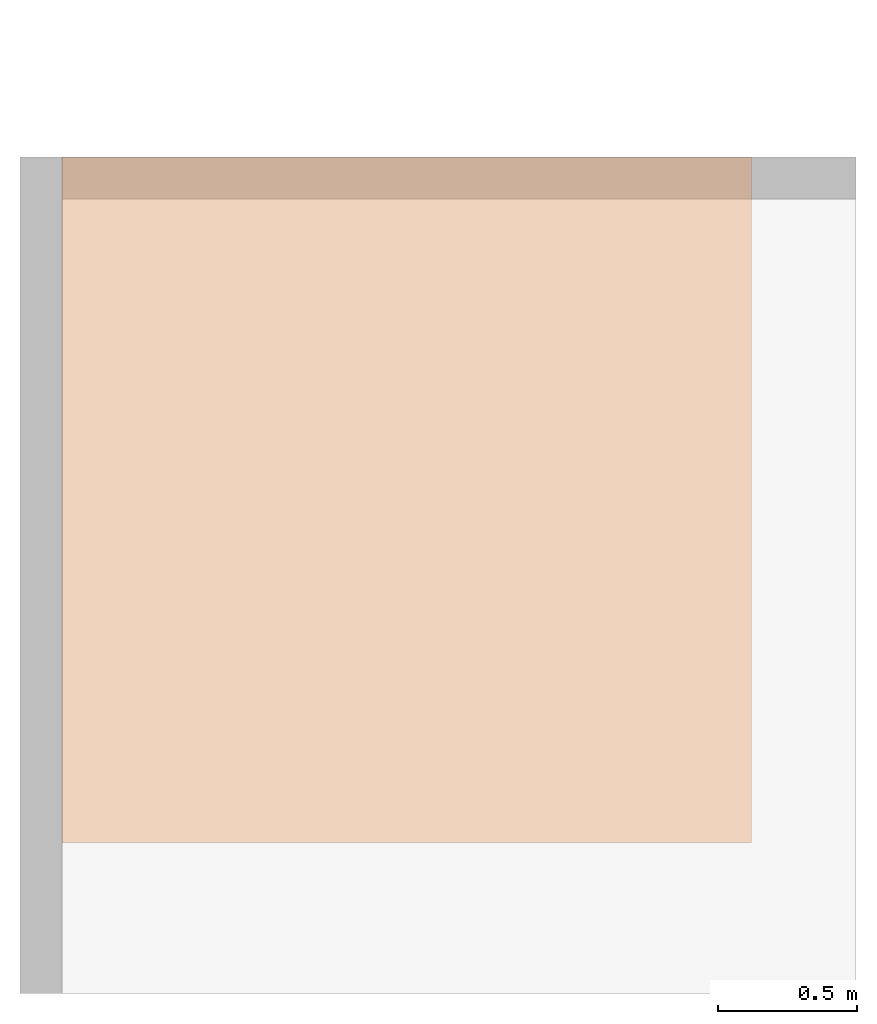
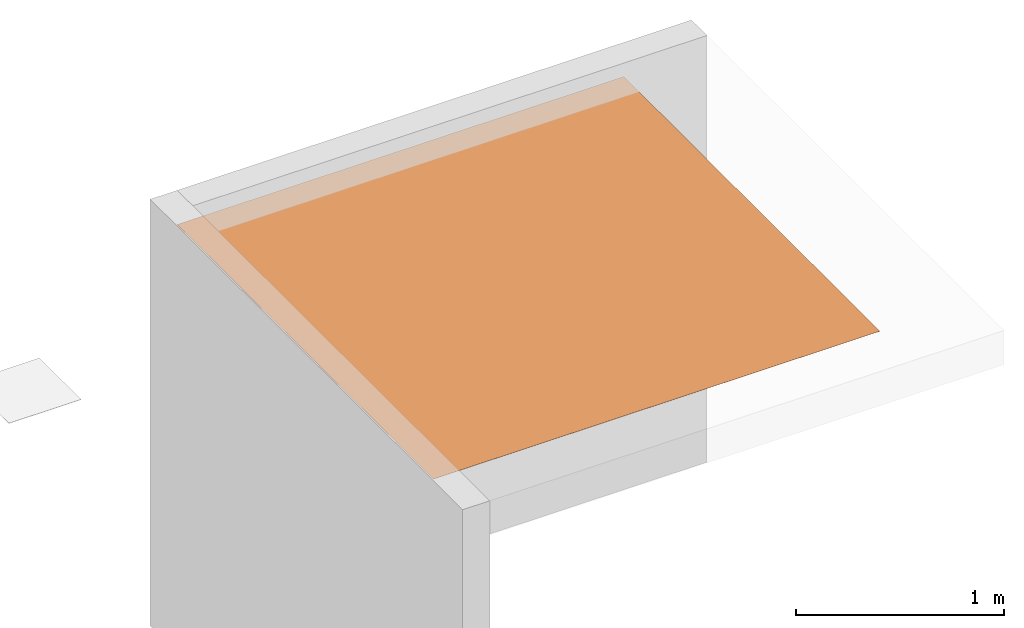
# One storey, part 3 of 3: 1 proxy.
"""IFC2X3 building model written with IfcOpenShell, lengths in metres."""

from ifc_helpers import new_model, entity, si_unit, converted_unit, derived_unit, direction, frame, origin, origin_2d_with_axis, place, context, subcontext, project, spatial, rectangle, extrude, source, transform, mapped, material, material_list, type_object, type_shapes, element, save


model = new_model("IFC2X3")

# Units and contexts
model_context = context("Model", 3, precision=1e-05, world=origin(), true_north=direction((6.123031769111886e-17, 1.0)))
body_context = subcontext(model_context, "Body", "Model", "MODEL_VIEW")
ifc_project = project(units=[si_unit("LENGTHUNIT", "METRE"), si_unit("AREAUNIT", "SQUARE_METRE"), si_unit("VOLUMEUNIT", "CUBIC_METRE"), converted_unit("PLANEANGLEUNIT", "DEGREE", entity("IfcRatioMeasure", 0.017453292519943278), si_unit("PLANEANGLEUNIT", "RADIAN"), dimensions=[0, 0, 0, 0, 0, 0, 0]), si_unit("MASSUNIT", "GRAM", prefix="KILO"), derived_unit("MASSDENSITYUNIT", [(si_unit("MASSUNIT", "GRAM", prefix="KILO"), 1), (si_unit("LENGTHUNIT", "METRE"), -3)]), derived_unit("IONCONCENTRATIONUNIT", [(si_unit("MASSUNIT", "GRAM", prefix="KILO"), 1), (si_unit("LENGTHUNIT", "METRE"), -3)]), derived_unit("MOMENTOFINERTIAUNIT", [(si_unit("LENGTHUNIT", "METRE"), 4)]), si_unit("TIMEUNIT", "SECOND"), si_unit("FREQUENCYUNIT", "HERTZ"), si_unit("THERMODYNAMICTEMPERATUREUNIT", "DEGREE_CELSIUS"), derived_unit("THERMALTRANSMITTANCEUNIT", [(si_unit("MASSUNIT", "GRAM", prefix="KILO"), 1), (si_unit("THERMODYNAMICTEMPERATUREUNIT", "KELVIN"), -1), (si_unit("TIMEUNIT", "SECOND"), -3)]), derived_unit("THERMALCONDUCTANCEUNIT", [(si_unit("MASSUNIT", "GRAM", prefix="KILO"), 1), (si_unit("THERMODYNAMICTEMPERATUREUNIT", "KELVIN"), -1), (si_unit("TIMEUNIT", "SECOND"), -3), (si_unit("LENGTHUNIT", "METRE"), 1)]), derived_unit("VOLUMETRICFLOWRATEUNIT", [(si_unit("LENGTHUNIT", "METRE"), 3), (si_unit("TIMEUNIT", "SECOND"), -1)]), derived_unit("MASSFLOWRATEUNIT", [(si_unit("MASSUNIT", "GRAM", prefix="KILO"), 1), (si_unit("TIMEUNIT", "SECOND"), -1)]), derived_unit("ROTATIONALFREQUENCYUNIT", [(si_unit("TIMEUNIT", "SECOND"), -1)]), si_unit("ELECTRICCURRENTUNIT", "AMPERE"), si_unit("ELECTRICVOLTAGEUNIT", "VOLT"), si_unit("POWERUNIT", "WATT"), si_unit("FORCEUNIT", "NEWTON", prefix="KILO"), si_unit("ILLUMINANCEUNIT", "LUX"), si_unit("LUMINOUSFLUXUNIT", "LUMEN"), si_unit("LUMINOUSINTENSITYUNIT", "CANDELA"), derived_unit("USERDEFINED", [(si_unit("MASSUNIT", "GRAM", prefix="KILO"), -1), (si_unit("LENGTHUNIT", "METRE"), -2), (si_unit("TIMEUNIT", "SECOND"), 3), (si_unit("LUMINOUSFLUXUNIT", "LUMEN"), 1)]), derived_unit("USERDEFINED", [(si_unit("MASSUNIT", "GRAM", prefix="KILO"), 1), (si_unit("TIMEUNIT", "SECOND"), -3), (si_unit("LENGTHUNIT", "METRE"), 3), (si_unit("ELECTRICCURRENTUNIT", "AMPERE"), -2)]), derived_unit("SOUNDPOWERUNIT", [(si_unit("MASSUNIT", "GRAM", prefix="KILO"), 1), (si_unit("TIMEUNIT", "SECOND"), -3), (si_unit("LENGTHUNIT", "METRE"), 2)]), derived_unit("SOUNDPRESSUREUNIT", [(si_unit("MASSUNIT", "GRAM", prefix="KILO"), 1), (si_unit("LENGTHUNIT", "METRE"), -1), (si_unit("TIMEUNIT", "SECOND"), -2)]), derived_unit("LINEARVELOCITYUNIT", [(si_unit("LENGTHUNIT", "METRE"), 1), (si_unit("TIMEUNIT", "SECOND"), -1)]), si_unit("PRESSUREUNIT", "PASCAL"), derived_unit("USERDEFINED", [(si_unit("MASSUNIT", "GRAM", prefix="KILO"), 1), (si_unit("LENGTHUNIT", "METRE"), -2), (si_unit("TIMEUNIT", "SECOND"), -2)]), derived_unit("LINEARFORCEUNIT", [(si_unit("MASSUNIT", "GRAM", prefix="KILO"), 1), (si_unit("TIMEUNIT", "SECOND"), -2)]), derived_unit("PLANARFORCEUNIT", [(si_unit("MASSUNIT", "GRAM", prefix="KILO"), 1), (si_unit("LENGTHUNIT", "METRE"), -1), (si_unit("TIMEUNIT", "SECOND"), -2)]), derived_unit("SPECIFICHEATCAPACITYUNIT", [(si_unit("THERMODYNAMICTEMPERATUREUNIT", "KELVIN"), -1), (si_unit("LENGTHUNIT", "METRE"), 2), (si_unit("TIMEUNIT", "SECOND"), -2)]), derived_unit("HEATINGVALUEUNIT", [(si_unit("LENGTHUNIT", "METRE"), 2), (si_unit("TIMEUNIT", "SECOND"), -2)]), derived_unit("VAPORPERMEABILITYUNIT", [(si_unit("LENGTHUNIT", "METRE"), -1), (si_unit("TIMEUNIT", "SECOND"), 1)]), derived_unit("DYNAMICVISCOSITYUNIT", [(si_unit("MASSUNIT", "GRAM", prefix="KILO"), 1), (si_unit("TIMEUNIT", "SECOND"), -1), (si_unit("LENGTHUNIT", "METRE"), -1)]), derived_unit("THERMALEXPANSIONCOEFFICIENTUNIT", [(si_unit("THERMODYNAMICTEMPERATUREUNIT", "KELVIN"), -1)]), derived_unit("MODULUSOFELASTICITYUNIT", [(si_unit("MASSUNIT", "GRAM", prefix="KILO"), 1), (si_unit("LENGTHUNIT", "METRE"), -1), (si_unit("TIMEUNIT", "SECOND"), -2)]), derived_unit("ISOTHERMALMOISTURECAPACITYUNIT", [(si_unit("LENGTHUNIT", "METRE"), 3), (si_unit("MASSUNIT", "GRAM", prefix="KILO"), -1)]), derived_unit("MOISTUREDIFFUSIVITYUNIT", [(si_unit("TIMEUNIT", "SECOND"), -1), (si_unit("LENGTHUNIT", "METRE"), 2)])], contexts=[model_context])

# Site, building, storey
site_placement = place(None, origin())
site = spatial("IfcSite", under=ifc_project, at=site_placement, Name="Default", CompositionType="ELEMENT")
building_placement = place(site_placement, origin())
building = spatial("IfcBuilding", under=site, at=building_placement, CompositionType="ELEMENT")
storey_placement = place(building_placement, frame((0.0, 0.0, -0.0025237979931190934)))
storey = spatial("IfcBuildingStorey", under=building, at=storey_placement, Name="ARQ Térreo", CompositionType="ELEMENT", Elevation=-0.0025237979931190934)

# Proxy
ifc_material_1 = material(Name="#Vitpoli Eco")
ifc_material_2 = material(Name="#Primer")
ifc_material_list = material_list([ifc_material_1, ifc_material_2])
building_element_proxy_type = type_object("IfcBuildingElementProxyType", Name="IMPER:IMPER", PredefinedType="NOTDEFINED", material=ifc_material_list)
shared_shape = source(origin(), body_context, "Body", "SweptSolid", [
    extrude(rectangle(XDim=1.880000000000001, YDim=1.8806458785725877, at=origin_2d_with_axis()), frame((0.5883525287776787, -0.7941299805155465, 2.2954505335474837), z_axis=(0.0, 0.0, 1.0), x_axis=(0.0, -1.0, 0.0)), (0.0, 0.0, 1.0), 0.001000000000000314),
    extrude(rectangle(XDim=2.46, YDim=2.4749999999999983, at=origin_2d_with_axis()), frame((0.8855295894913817, -1.0841299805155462, 2.2964505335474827), z_axis=(0.0, 0.0, 1.0), x_axis=(0.0, -1.0, 0.0)), (0.0, 0.0, 1.0), 0.001025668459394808),
])
type_shapes(building_element_proxy_type, [shared_shape])
proxy_placement = place(storey_placement, frame((0.0, 0.0, 0.0025237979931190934)))
element("IfcBuildingElementProxy", 1, at=proxy_placement, inside=storey, type_object=building_element_proxy_type, material=ifc_material_list, Name="IMPER:IMPER:IMPER : IMPER:IMPER", ObjectType="IMPER:IMPER:IMPER : IMPER:IMPER", context=body_context, shape_type="MappedRepresentation", body=[
    mapped(shared_shape, transform((0.0, 0.0, 0.0), scale=1.0)),
])

save(model, "model.ifc")
